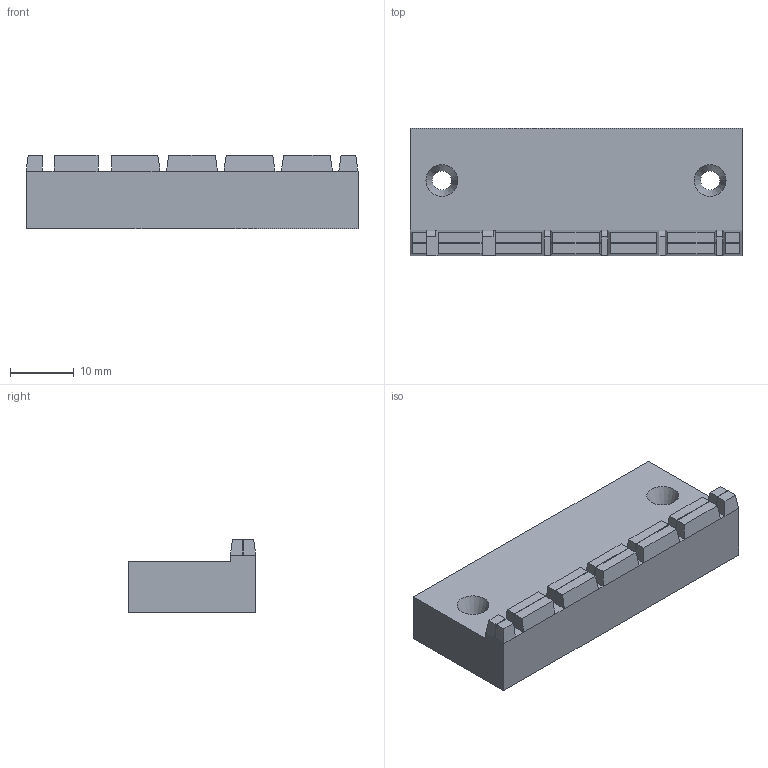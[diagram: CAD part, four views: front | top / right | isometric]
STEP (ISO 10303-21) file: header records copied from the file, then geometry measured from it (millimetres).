
FILE_DESCRIPTION(('STEP AP203'), '1');
FILE_NAME('ïîðîæåê âåðõíèé', '', ('UNSPECIFIED'), ('UNSPECIFIED'), 'ASCON STEP Converter 1.3', 'ASCON Math Kernel', '');
FILE_SCHEMA(('CONFIG_CONTROL_DESIGN'));
Length unit declared in the file: millimetre
Bounding box: 52 x 20 x 11.5 mm (x, y, z)
Volume: 8755.5 mm3; surface area: 3971.1 mm2
Topology: 1 solids, 1 shells, 106 faces, 256 edges, 152 vertices
Faces by surface type: plane 96, cylinder 8, cone 2
Full cylindrical faces by diameter (mm): 3 x2
Entity records: 3850 total; most frequent: CARTESIAN_POINT 511, ORIENTED_EDGE 504, DIRECTION 484, EDGE_CURVE 252, LINE 234, VECTOR 234, VERTEX_POINT 152, AXIS2_PLACEMENT_3D 125
